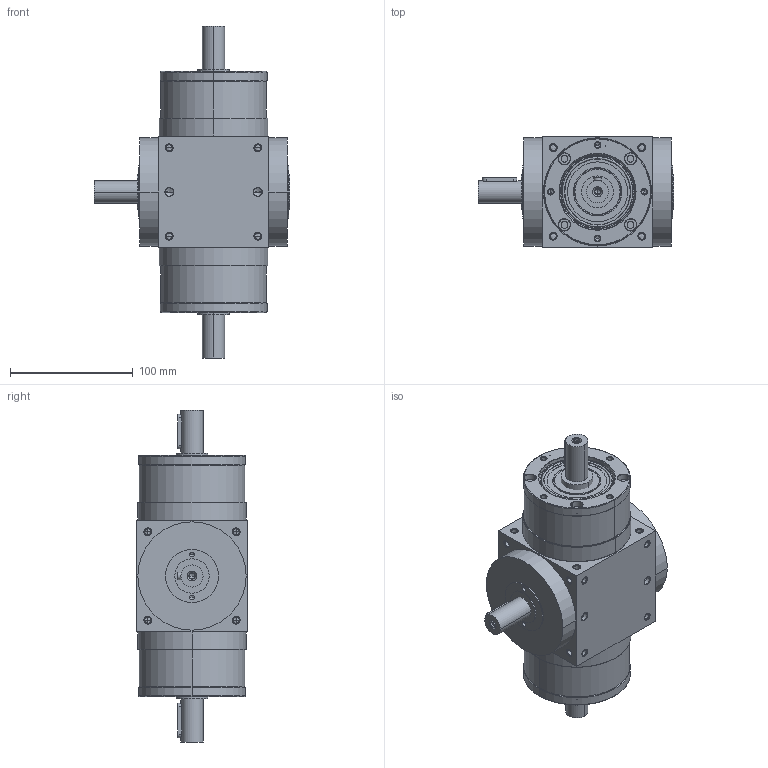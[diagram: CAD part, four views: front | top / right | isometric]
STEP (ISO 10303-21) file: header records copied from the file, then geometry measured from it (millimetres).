
FILE_DESCRIPTION((''),'2;1');
FILE_NAME('AT090LM-1_ASM','2010-02-09T',('d00080'),(''),'PRO/ENGINEER BY PARAMETRIC TECHNOLOGY CORPORATION, 2008170','PRO/ENGINEER BY PARAMETRIC TECHNOLOGY CORPORATION, 2008170','');
FILE_SCHEMA(('CONFIG_CONTROL_DESIGN'));
Length unit declared in the file: millimetre
Products named in the file (4): ATLM-HOUSING-1-4; P1801400001; 22400071004; AT090LM-1_ASM
Assembly tree (5 placements, depth 2):
  AT090LM-1_ASM
    ATLM-HOUSING-1-4
    P1801400001  x2
    22400071004  x2
Bounding box: 159 x 90 x 270 mm (x, y, z)
Volume: 1347002.7 mm3; surface area: 178500.6 mm2
Topology: 7 solids, 42 shells, 775 faces, 1881 edges, 1113 vertices
Faces by surface type: cylinder 338, cone 260, plane 103, torus 66, bspline 8
Entity records: 17583 total; most frequent: CARTESIAN_POINT 3835, DIRECTION 3065, ORIENTED_EDGE 2622, EDGE_CURVE 1373, AXIS2_PLACEMENT_3D 1283, VERTEX_POINT 860, CIRCLE 694, EDGE_LOOP 683
